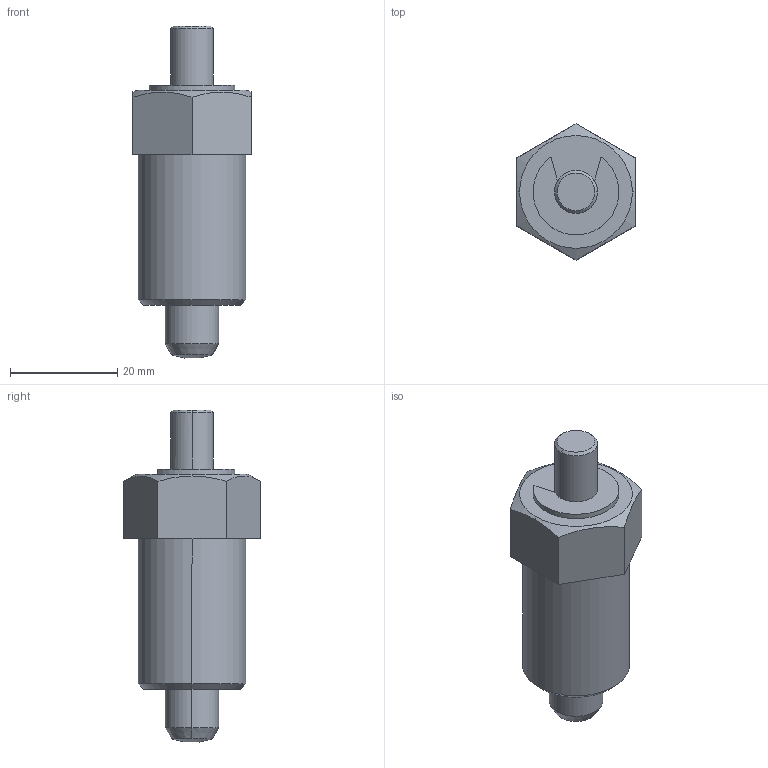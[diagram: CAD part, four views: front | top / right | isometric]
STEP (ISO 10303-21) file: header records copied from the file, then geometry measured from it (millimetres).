
FILE_DESCRIPTION (( 'STEP AP203' ), '1' );
FILE_NAME ('ndx20n-m8-sus.STEP', '2021-10-26T04:05:47', ( '' ), ( '' ), 'SwSTEP 2.0', 'SolidWorks 2020', '' );
FILE_SCHEMA (( 'CONFIG_CONTROL_DESIGN' ));
Length unit declared in the file: millimetre
Products named in the file (1): ndx20n-m8-sus
Bounding box: 22 x 25.4 x 61.83 mm (x, y, z)
Volume: 15191.7 mm3; surface area: 4024.6 mm2
Topology: 1 solids, 1 shells, 33 faces, 78 edges, 50 vertices
Faces by surface type: plane 13, cylinder 11, cone 8, bspline 1
Entity records: 1092 total; most frequent: CARTESIAN_POINT 241, DIRECTION 168, ORIENTED_EDGE 156, EDGE_CURVE 78, AXIS2_PLACEMENT_3D 65, VERTEX_POINT 50, LINE 38, VECTOR 38
